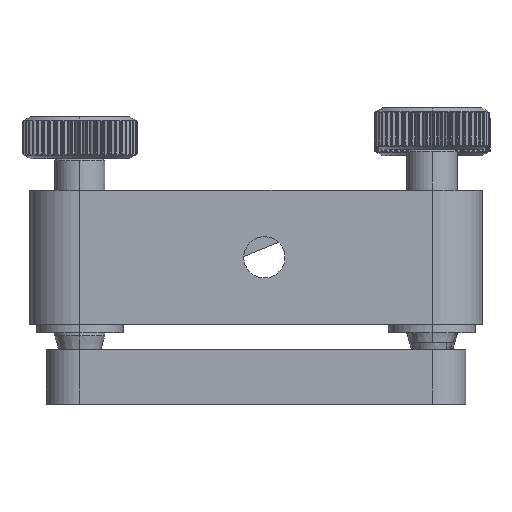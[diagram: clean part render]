
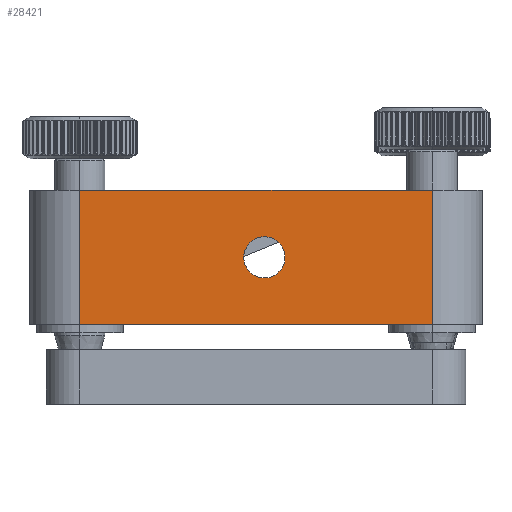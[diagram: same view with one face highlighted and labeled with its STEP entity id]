
A CAD part, left-side view. The second image highlights one B-rep face of the part: STEP entity #28421.
In plain terms, the highlighted planar face has unit normal (-1, 0, 0).
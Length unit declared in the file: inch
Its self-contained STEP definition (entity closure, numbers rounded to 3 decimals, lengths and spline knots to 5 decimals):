
#9737 = DIRECTION ( 'NONE',  ( 0., 1., 0. ) ) ;
#9738 = DIRECTION ( 'NONE',  ( 1., 0., 0. ) ) ;
#9739 = AXIS2_PLACEMENT_3D ( 'NONE', #9745, #9738, #9737 ) ;
#9740 = CIRCLE ( 'NONE', #9739, 2.4585 ) ;
#9745 = CARTESIAN_POINT ( 'NONE',  ( -1.07423, 25.96226, 8. ) ) ;
#9883 = VECTOR ( 'NONE', #9951, 39.37008 ) ;
#9884 = CARTESIAN_POINT ( 'NONE',  ( -1.07423, -0.03774, 16. ) ) ;
#9885 = LINE ( 'NONE', #9884, #9883 ) ;
#9887 = CARTESIAN_POINT ( 'NONE',  ( -1.07423, 47.96226, 16. ) ) ;
#9950 = CARTESIAN_POINT ( 'NONE',  ( -1.07423, 5.96226, 16. ) ) ;
#9951 = DIRECTION ( 'NONE',  ( 0., 1., 0. ) ) ;
#10017 = FACE_BOUND ( 'NONE', #28430, .T. ) ;
#10023 = FACE_OUTER_BOUND ( 'NONE', #28422, .T. ) ;
#10068 = DIRECTION ( 'NONE',  ( 0., 0., -1. ) ) ;
#10069 = VECTOR ( 'NONE', #10068, 39.37008 ) ;
#10070 = CARTESIAN_POINT ( 'NONE',  ( -1.07423, 5.96226, 0. ) ) ;
#10071 = LINE ( 'NONE', #10070, #10069 ) ;
#10072 = CARTESIAN_POINT ( 'NONE',  ( -1.07423, 5.96226, 0. ) ) ;
#10073 = DIRECTION ( 'NONE',  ( 0., -1., 0. ) ) ;
#10074 = VECTOR ( 'NONE', #10073, 39.37008 ) ;
#10075 = CARTESIAN_POINT ( 'NONE',  ( -1.07423, 26.96226, 0. ) ) ;
#10076 = LINE ( 'NONE', #10075, #10074 ) ;
#10077 = DIRECTION ( 'NONE',  ( 0., -1., 0. ) ) ;
#10078 = DIRECTION ( 'NONE',  ( -1., 0., 0. ) ) ;
#10079 = CARTESIAN_POINT ( 'NONE',  ( -1.07423, -0.03774, 0. ) ) ;
#10080 = AXIS2_PLACEMENT_3D ( 'NONE', #10079, #10078, #10077 ) ;
#10081 = PLANE ( 'NONE',  #10080 ) ;
#10109 = DIRECTION ( 'NONE',  ( 0., 0., -1. ) ) ;
#10110 = VECTOR ( 'NONE', #10109, 39.37008 ) ;
#10111 = CARTESIAN_POINT ( 'NONE',  ( -1.07423, 47.96226, 0. ) ) ;
#10112 = LINE ( 'NONE', #10111, #10110 ) ;
#10113 = CARTESIAN_POINT ( 'NONE',  ( -1.07423, 47.96226, 0. ) ) ;
#14197 = CARTESIAN_POINT ( 'NONE',  ( -1.07423, 23.50376, 8. ) ) ;
#14198 = DIRECTION ( 'NONE',  ( 0., 1., 0. ) ) ;
#14199 = DIRECTION ( 'NONE',  ( 1., 0., 0. ) ) ;
#14200 = CARTESIAN_POINT ( 'NONE',  ( -1.07423, 25.96226, 8. ) ) ;
#14201 = AXIS2_PLACEMENT_3D ( 'NONE', #14200, #14199, #14198 ) ;
#14202 = CIRCLE ( 'NONE', #14201, 2.4585 ) ;
#14235 = CARTESIAN_POINT ( 'NONE',  ( -1.07423, 28.42076, 8. ) ) ;
#28201 = EDGE_CURVE ( 'NONE', #30532, #30518, #9740, .T. ) ;
#28317 = VERTEX_POINT ( 'NONE', #9887 ) ;
#28320 = EDGE_CURVE ( 'NONE', #28321, #28317, #9885, .T. ) ;
#28321 = VERTEX_POINT ( 'NONE', #9950 ) ;
#28421 = ADVANCED_FACE ( 'NONE', ( #10023, #10017 ), #10081, .T. ) ;
#28422 = EDGE_LOOP ( 'NONE', ( #28423, #28424, #28427, #28429 ) ) ;
#28423 = ORIENTED_EDGE ( 'NONE', *, *, #28445, .T. ) ;
#28424 = ORIENTED_EDGE ( 'NONE', *, *, #28425, .T. ) ;
#28425 = EDGE_CURVE ( 'NONE', #28443, #28426, #10076, .T. ) ;
#28426 = VERTEX_POINT ( 'NONE', #10072 ) ;
#28427 = ORIENTED_EDGE ( 'NONE', *, *, #28428, .F. ) ;
#28428 = EDGE_CURVE ( 'NONE', #28321, #28426, #10071, .T. ) ;
#28429 = ORIENTED_EDGE ( 'NONE', *, *, #28320, .T. ) ;
#28430 = EDGE_LOOP ( 'NONE', ( #28431, #28487 ) ) ;
#28431 = ORIENTED_EDGE ( 'NONE', *, *, #28201, .T. ) ;
#28443 = VERTEX_POINT ( 'NONE', #10113 ) ;
#28445 = EDGE_CURVE ( 'NONE', #28317, #28443, #10112, .T. ) ;
#28487 = ORIENTED_EDGE ( 'NONE', *, *, #30517, .T. ) ;
#30517 = EDGE_CURVE ( 'NONE', #30518, #30532, #14202, .T. ) ;
#30518 = VERTEX_POINT ( 'NONE', #14197 ) ;
#30532 = VERTEX_POINT ( 'NONE', #14235 ) ;
